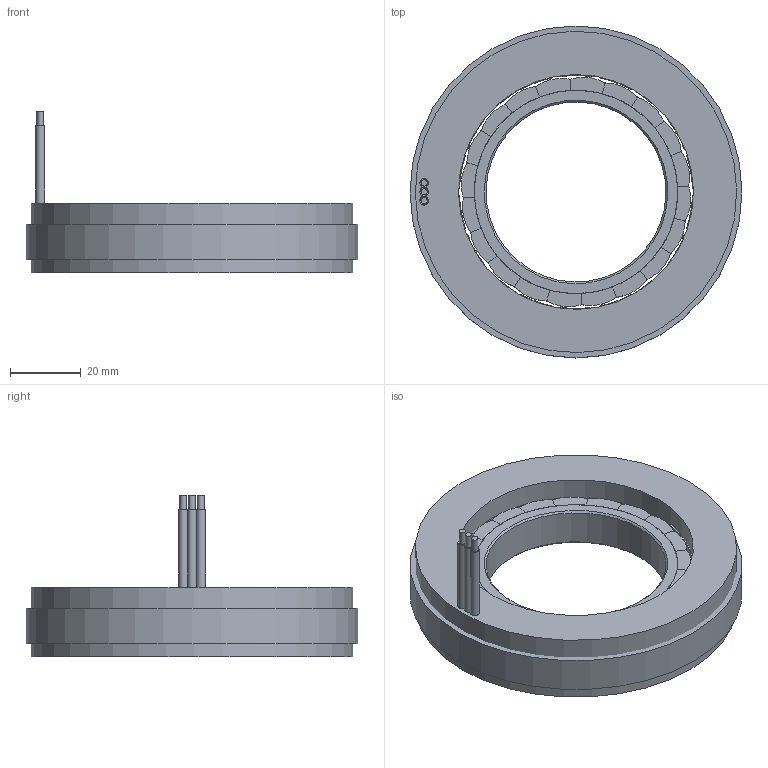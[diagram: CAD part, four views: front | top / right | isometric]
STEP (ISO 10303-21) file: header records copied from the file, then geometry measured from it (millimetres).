
FILE_DESCRIPTION (( 'STEP AP214' ), '1' );
FILE_NAME ('9408萇儂.STEP', '2024-01-17T05:39:53', ( '' ), ( '' ), 'SwSTEP 2.0', 'SolidWorks 2022', '' );
FILE_SCHEMA (( 'AUTOMOTIVE_DESIGN' ));
Length unit declared in the file: millimetre
Products named in the file (1): 9408萇儂
Bounding box: 94 x 94 x 45.7 mm (x, y, z)
Volume: 116979 mm3; surface area: 62367.8 mm2
Topology: 44 solids, 44 shells, 662 faces, 1705 edges, 1137 vertices
Faces by surface type: plane 386, cylinder 274, cone 2
Full cylindrical faces by diameter (mm): 1.8 x6, 2.5 x3, 51 x1, 57.6 x1, 66.5 x1, 91 x1, 94 x1
Entity records: 27927 total; most frequent: DIRECTION 3562, CARTESIAN_POINT 3483, ORIENTED_EDGE 3372, EDGE_CURVE 1686, AXIS2_PLACEMENT_3D 1213, VECTOR 1136, LINE 1136, VERTEX_POINT 1134
